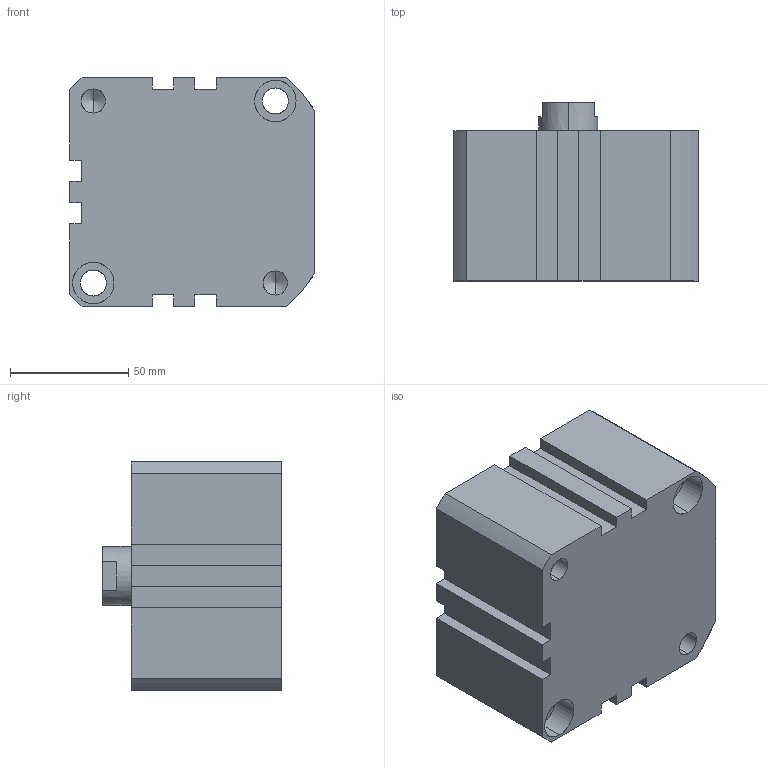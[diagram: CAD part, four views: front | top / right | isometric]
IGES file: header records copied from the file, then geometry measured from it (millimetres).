
Start section: SolidWorks IGES file using analytic representation for surfaces
Global section: file name: C:\Users\Toshiba\Desktop\XC#2-80D-10.IGS; native system: SolidWorks 2014; preprocessor: SolidWorks 2014; author: Toshiba; date: 160523.161708; units: millimetre
Bounding box: 103.5 x 75.5 x 97 mm (x, y, z)
Surface area: 60375.5 mm2 (no closed solid volume)
Topology: 0 solids, 0 shells, 111 faces, 1863 edges, 1857 vertices
Faces by surface type: revolution 65, bspline 46
